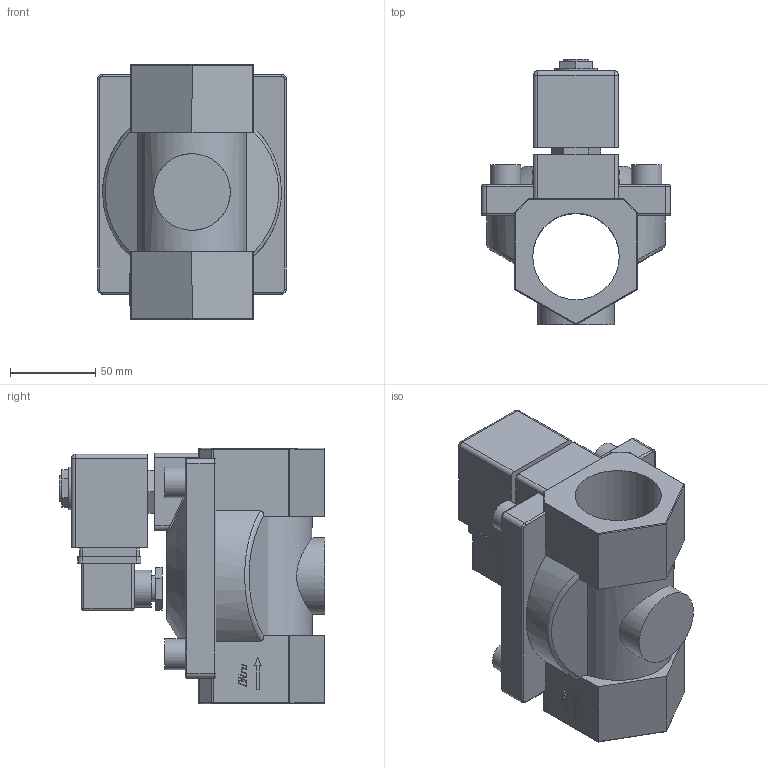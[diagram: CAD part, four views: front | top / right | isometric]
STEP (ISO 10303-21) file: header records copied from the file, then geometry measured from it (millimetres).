
FILE_DESCRIPTION(('STEP AP242'), '1');
FILE_NAME('VS431-VT-NC-24VAC 2 孰囡囗 尻蝠铎嚆龛蝽 DN.ru 捏50 畜16', '', ('UNSPECIFIED'), ('UNSPECIFIED'), 'C3D Converter', 'C3D Toolkit', '');
FILE_SCHEMA(('AP242_MANAGED_MODEL_BASED_3D_ENGINEERING_MIM_LF { 1 0 10303 442 1 1 4 }'));
Length unit declared in the file: millimetre
Products named in the file (1): VS431-VT-NC-24VAC 2
Bounding box: 111 x 156 x 150 mm (x, y, z)
Volume: 852329.4 mm3; surface area: 111055.9 mm2
Topology: 1 solids, 1 shells, 310 faces, 781 edges, 492 vertices
Faces by surface type: plane 150, cylinder 80, extrusion 40, torus 21, bspline 12, sphere 6, cone 1
Full cylindrical faces by diameter (mm): 15 x1, 15.5 x1, 18 x4, 22 x1, 25 x1, 45 x1, 50.8 x1
Entity records: 13992 total; most frequent: CARTESIAN_POINT 5838, ORIENTED_EDGE 1526, DIRECTION 1376, EDGE_CURVE 763, VECTOR 510, VERTEX_POINT 492, LINE 470, AXIS2_PLACEMENT_3D 433
